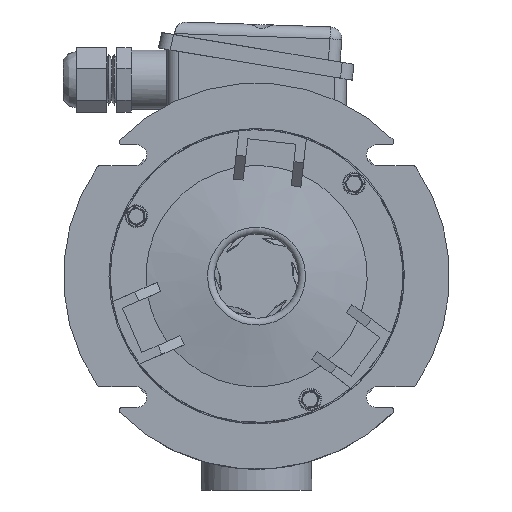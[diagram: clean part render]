
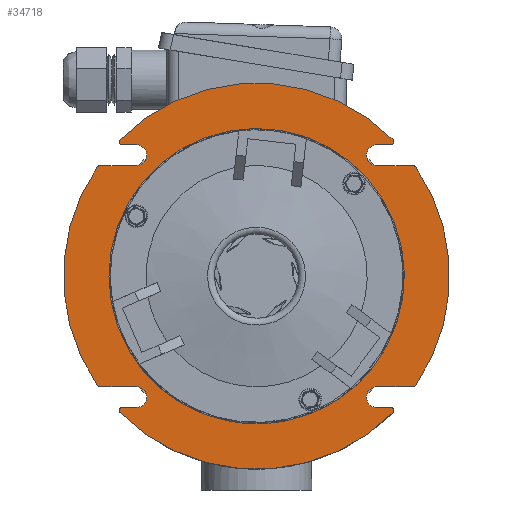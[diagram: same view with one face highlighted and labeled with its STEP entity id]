
A CAD part, front view. The second image highlights one B-rep face of the part: STEP entity #34718.
In plain terms, the highlighted planar face has unit normal (0, -1, 0).
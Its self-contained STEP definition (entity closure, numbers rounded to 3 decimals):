
#1494=FACE_BOUND('',#5978,.T.);
#2336=PLANE('',#37653);
#3986=FACE_OUTER_BOUND('',#5977,.T.);
#5977=EDGE_LOOP('',(#29343,#29344,#29345,#29346,#29347,#29348,#29349,#29350,
#29351,#29352,#29353,#29354,#29355,#29356,#29357,#29358,#29359,#29360,#29361,
#29362,#29363,#29364,#29365,#29366));
#5978=EDGE_LOOP('',(#29367,#29368));
#8481=LINE('',#68772,#11085);
#8484=LINE('',#68782,#11088);
#8485=LINE('',#68786,#11089);
#8486=LINE('',#68794,#11090);
#8487=LINE('',#68798,#11091);
#8488=LINE('',#68806,#11092);
#8489=LINE('',#68810,#11093);
#8490=LINE('',#68818,#11094);
#11085=VECTOR('',#45504,1.);
#11088=VECTOR('',#45513,1.);
#11089=VECTOR('',#45516,1.);
#11090=VECTOR('',#45523,1.);
#11091=VECTOR('',#45526,1.);
#11092=VECTOR('',#45533,1.);
#11093=VECTOR('',#45536,1.);
#11094=VECTOR('',#45543,1.);
#12732=CIRCLE('',#37651,0.1);
#12733=CIRCLE('',#37654,6.5);
#12734=CIRCLE('',#37655,0.1);
#12735=CIRCLE('',#37656,0.35);
#12736=CIRCLE('',#37657,0.1);
#12737=CIRCLE('',#37658,6.5);
#12738=CIRCLE('',#37659,0.1);
#12739=CIRCLE('',#37660,0.35);
#12740=CIRCLE('',#37661,0.1);
#12741=CIRCLE('',#37662,6.5);
#12742=CIRCLE('',#37663,0.1);
#12743=CIRCLE('',#37664,0.35);
#12744=CIRCLE('',#37665,0.1);
#12745=CIRCLE('',#37666,6.5);
#12746=CIRCLE('',#37667,0.1);
#12747=CIRCLE('',#37668,0.35);
#12748=CIRCLE('',#37669,4.97);
#12749=CIRCLE('',#37670,4.97);
#15670=VERTEX_POINT('',#68765);
#15671=VERTEX_POINT('',#68767);
#15672=VERTEX_POINT('',#68771);
#15674=VERTEX_POINT('',#68777);
#15675=VERTEX_POINT('',#68779);
#15676=VERTEX_POINT('',#68781);
#15677=VERTEX_POINT('',#68783);
#15678=VERTEX_POINT('',#68785);
#15679=VERTEX_POINT('',#68787);
#15680=VERTEX_POINT('',#68789);
#15681=VERTEX_POINT('',#68791);
#15682=VERTEX_POINT('',#68793);
#15683=VERTEX_POINT('',#68795);
#15684=VERTEX_POINT('',#68797);
#15685=VERTEX_POINT('',#68799);
#15686=VERTEX_POINT('',#68801);
#15687=VERTEX_POINT('',#68803);
#15688=VERTEX_POINT('',#68805);
#15689=VERTEX_POINT('',#68807);
#15690=VERTEX_POINT('',#68809);
#15691=VERTEX_POINT('',#68811);
#15692=VERTEX_POINT('',#68813);
#15693=VERTEX_POINT('',#68815);
#15694=VERTEX_POINT('',#68817);
#15695=VERTEX_POINT('',#68820);
#15696=VERTEX_POINT('',#68821);
#20339=EDGE_CURVE('',#15670,#15671,#12732,.T.);
#20341=EDGE_CURVE('',#15672,#15671,#8481,.T.);
#20344=EDGE_CURVE('',#15670,#15674,#12733,.T.);
#20345=EDGE_CURVE('',#15675,#15674,#12734,.T.);
#20346=EDGE_CURVE('',#15675,#15676,#8484,.T.);
#20347=EDGE_CURVE('',#15677,#15676,#12735,.T.);
#20348=EDGE_CURVE('',#15677,#15678,#8485,.T.);
#20349=EDGE_CURVE('',#15679,#15678,#12736,.T.);
#20350=EDGE_CURVE('',#15679,#15680,#12737,.T.);
#20351=EDGE_CURVE('',#15681,#15680,#12738,.T.);
#20352=EDGE_CURVE('',#15681,#15682,#8486,.T.);
#20353=EDGE_CURVE('',#15683,#15682,#12739,.T.);
#20354=EDGE_CURVE('',#15683,#15684,#8487,.T.);
#20355=EDGE_CURVE('',#15685,#15684,#12740,.T.);
#20356=EDGE_CURVE('',#15685,#15686,#12741,.T.);
#20357=EDGE_CURVE('',#15687,#15686,#12742,.T.);
#20358=EDGE_CURVE('',#15687,#15688,#8488,.T.);
#20359=EDGE_CURVE('',#15689,#15688,#12743,.T.);
#20360=EDGE_CURVE('',#15689,#15690,#8489,.T.);
#20361=EDGE_CURVE('',#15691,#15690,#12744,.T.);
#20362=EDGE_CURVE('',#15691,#15692,#12745,.T.);
#20363=EDGE_CURVE('',#15693,#15692,#12746,.T.);
#20364=EDGE_CURVE('',#15693,#15694,#8490,.T.);
#20365=EDGE_CURVE('',#15672,#15694,#12747,.T.);
#20366=EDGE_CURVE('',#15695,#15696,#12748,.T.);
#20367=EDGE_CURVE('',#15696,#15695,#12749,.T.);
#29343=ORIENTED_EDGE('',*,*,#20339,.F.);
#29344=ORIENTED_EDGE('',*,*,#20344,.T.);
#29345=ORIENTED_EDGE('',*,*,#20345,.F.);
#29346=ORIENTED_EDGE('',*,*,#20346,.T.);
#29347=ORIENTED_EDGE('',*,*,#20347,.F.);
#29348=ORIENTED_EDGE('',*,*,#20348,.T.);
#29349=ORIENTED_EDGE('',*,*,#20349,.F.);
#29350=ORIENTED_EDGE('',*,*,#20350,.T.);
#29351=ORIENTED_EDGE('',*,*,#20351,.F.);
#29352=ORIENTED_EDGE('',*,*,#20352,.T.);
#29353=ORIENTED_EDGE('',*,*,#20353,.F.);
#29354=ORIENTED_EDGE('',*,*,#20354,.T.);
#29355=ORIENTED_EDGE('',*,*,#20355,.F.);
#29356=ORIENTED_EDGE('',*,*,#20356,.T.);
#29357=ORIENTED_EDGE('',*,*,#20357,.F.);
#29358=ORIENTED_EDGE('',*,*,#20358,.T.);
#29359=ORIENTED_EDGE('',*,*,#20359,.F.);
#29360=ORIENTED_EDGE('',*,*,#20360,.T.);
#29361=ORIENTED_EDGE('',*,*,#20361,.F.);
#29362=ORIENTED_EDGE('',*,*,#20362,.T.);
#29363=ORIENTED_EDGE('',*,*,#20363,.F.);
#29364=ORIENTED_EDGE('',*,*,#20364,.T.);
#29365=ORIENTED_EDGE('',*,*,#20365,.F.);
#29366=ORIENTED_EDGE('',*,*,#20341,.T.);
#29367=ORIENTED_EDGE('',*,*,#20366,.F.);
#29368=ORIENTED_EDGE('',*,*,#20367,.F.);
#34718=ADVANCED_FACE('',(#3986,#1494),#2336,.T.);
#37651=AXIS2_PLACEMENT_3D('',#68768,#45499,#45500);
#37653=AXIS2_PLACEMENT_3D('',#68776,#45507,#45508);
#37654=AXIS2_PLACEMENT_3D('',#68778,#45509,#45510);
#37655=AXIS2_PLACEMENT_3D('',#68780,#45511,#45512);
#37656=AXIS2_PLACEMENT_3D('',#68784,#45514,#45515);
#37657=AXIS2_PLACEMENT_3D('',#68788,#45517,#45518);
#37658=AXIS2_PLACEMENT_3D('',#68790,#45519,#45520);
#37659=AXIS2_PLACEMENT_3D('',#68792,#45521,#45522);
#37660=AXIS2_PLACEMENT_3D('',#68796,#45524,#45525);
#37661=AXIS2_PLACEMENT_3D('',#68800,#45527,#45528);
#37662=AXIS2_PLACEMENT_3D('',#68802,#45529,#45530);
#37663=AXIS2_PLACEMENT_3D('',#68804,#45531,#45532);
#37664=AXIS2_PLACEMENT_3D('',#68808,#45534,#45535);
#37665=AXIS2_PLACEMENT_3D('',#68812,#45537,#45538);
#37666=AXIS2_PLACEMENT_3D('',#68814,#45539,#45540);
#37667=AXIS2_PLACEMENT_3D('',#68816,#45541,#45542);
#37668=AXIS2_PLACEMENT_3D('',#68819,#45544,#45545);
#37669=AXIS2_PLACEMENT_3D('',#68822,#45546,#45547);
#37670=AXIS2_PLACEMENT_3D('',#68823,#45548,#45549);
#45499=DIRECTION('center_axis',(0.,1.,0.));
#45500=DIRECTION('ref_axis',(0.466,0.,-0.885));
#45504=DIRECTION('',(1.,0.,0.));
#45507=DIRECTION('center_axis',(0.,-1.,0.));
#45508=DIRECTION('ref_axis',(0.,0.,-1.));
#45509=DIRECTION('center_axis',(0.,-1.,0.));
#45510=DIRECTION('ref_axis',(1.,0.,0.));
#45511=DIRECTION('center_axis',(0.,1.,0.));
#45512=DIRECTION('ref_axis',(0.466,0.,0.885));
#45513=DIRECTION('',(-1.,0.,0.));
#45514=DIRECTION('center_axis',(0.,-1.,0.));
#45515=DIRECTION('ref_axis',(-0.707,0.,0.707));
#45516=DIRECTION('',(1.,0.,0.));
#45517=DIRECTION('center_axis',(0.,1.,0.));
#45518=DIRECTION('ref_axis',(0.924,0.,-0.383));
#45519=DIRECTION('center_axis',(0.,-1.,0.));
#45520=DIRECTION('ref_axis',(1.,0.,0.));
#45521=DIRECTION('center_axis',(0.,1.,0.));
#45522=DIRECTION('ref_axis',(-0.924,0.,-0.383));
#45523=DIRECTION('',(1.,0.,0.));
#45524=DIRECTION('center_axis',(0.,-1.,0.));
#45525=DIRECTION('ref_axis',(0.707,0.,-0.707));
#45526=DIRECTION('',(-1.,0.,0.));
#45527=DIRECTION('center_axis',(0.,1.,0.));
#45528=DIRECTION('ref_axis',(-0.466,0.,0.885));
#45529=DIRECTION('center_axis',(0.,-1.,0.));
#45530=DIRECTION('ref_axis',(1.,0.,0.));
#45531=DIRECTION('center_axis',(0.,1.,0.));
#45532=DIRECTION('ref_axis',(-0.466,0.,-0.885));
#45533=DIRECTION('',(1.,0.,0.));
#45534=DIRECTION('center_axis',(0.,-1.,0.));
#45535=DIRECTION('ref_axis',(0.707,0.,-0.707));
#45536=DIRECTION('',(-1.,0.,0.));
#45537=DIRECTION('center_axis',(0.,1.,0.));
#45538=DIRECTION('ref_axis',(-0.924,0.,0.383));
#45539=DIRECTION('center_axis',(0.,-1.,0.));
#45540=DIRECTION('ref_axis',(1.,0.,0.));
#45541=DIRECTION('center_axis',(0.,1.,0.));
#45542=DIRECTION('ref_axis',(0.924,0.,0.383));
#45543=DIRECTION('',(-1.,0.,0.));
#45544=DIRECTION('center_axis',(0.,-1.,0.));
#45545=DIRECTION('ref_axis',(-0.707,0.,0.707));
#45546=DIRECTION('center_axis',(0.,-1.,0.));
#45547=DIRECTION('ref_axis',(1.,0.,0.));
#45548=DIRECTION('center_axis',(0.,-1.,0.));
#45549=DIRECTION('ref_axis',(1.,0.,0.));
#68765=CARTESIAN_POINT('',(5.357,0.223,-3.682));
#68767=CARTESIAN_POINT('',(5.274,0.223,-3.725));
#68768=CARTESIAN_POINT('Origin',(5.274,0.223,-3.625));
#68771=CARTESIAN_POINT('',(4.05,0.223,-3.725));
#68772=CARTESIAN_POINT('',(6.463,0.223,-3.725));
#68776=CARTESIAN_POINT('Origin',(4.97,0.223,0.));
#68777=CARTESIAN_POINT('',(5.357,0.223,3.682));
#68778=CARTESIAN_POINT('Origin',(0.,0.223,0.));
#68779=CARTESIAN_POINT('',(5.274,0.223,3.725));
#68780=CARTESIAN_POINT('Origin',(5.274,0.223,3.625));
#68781=CARTESIAN_POINT('',(4.05,0.223,3.725));
#68782=CARTESIAN_POINT('',(6.463,0.223,3.725));
#68783=CARTESIAN_POINT('',(4.05,0.223,4.425));
#68784=CARTESIAN_POINT('Origin',(4.05,0.223,4.075));
#68785=CARTESIAN_POINT('',(4.526,0.223,4.425));
#68786=CARTESIAN_POINT('',(4.335,0.223,4.425));
#68787=CARTESIAN_POINT('',(4.597,0.223,4.596));
#68788=CARTESIAN_POINT('Origin',(4.526,0.223,4.525));
#68789=CARTESIAN_POINT('',(-4.597,0.223,4.596));
#68790=CARTESIAN_POINT('Origin',(0.,0.223,0.));
#68791=CARTESIAN_POINT('',(-4.526,0.223,4.425));
#68792=CARTESIAN_POINT('Origin',(-4.526,0.223,4.525));
#68793=CARTESIAN_POINT('',(-4.05,0.223,4.425));
#68794=CARTESIAN_POINT('',(0.635,0.223,4.425));
#68795=CARTESIAN_POINT('',(-4.05,0.223,3.725));
#68796=CARTESIAN_POINT('Origin',(-4.05,0.223,4.075));
#68797=CARTESIAN_POINT('',(-5.274,0.223,3.725));
#68798=CARTESIAN_POINT('',(-1.493,0.223,3.725));
#68799=CARTESIAN_POINT('',(-5.357,0.223,3.682));
#68800=CARTESIAN_POINT('Origin',(-5.274,0.223,3.625));
#68801=CARTESIAN_POINT('',(-5.357,0.223,-3.682));
#68802=CARTESIAN_POINT('Origin',(0.,0.223,0.));
#68803=CARTESIAN_POINT('',(-5.274,0.223,-3.725));
#68804=CARTESIAN_POINT('Origin',(-5.274,0.223,-3.625));
#68805=CARTESIAN_POINT('',(-4.05,0.223,-3.725));
#68806=CARTESIAN_POINT('',(-1.493,0.223,-3.725));
#68807=CARTESIAN_POINT('',(-4.05,0.223,-4.425));
#68808=CARTESIAN_POINT('Origin',(-4.05,0.223,-4.075));
#68809=CARTESIAN_POINT('',(-4.526,0.223,-4.425));
#68810=CARTESIAN_POINT('',(0.635,0.223,-4.425));
#68811=CARTESIAN_POINT('',(-4.597,0.223,-4.596));
#68812=CARTESIAN_POINT('Origin',(-4.526,0.223,-4.525));
#68813=CARTESIAN_POINT('',(4.597,0.223,-4.596));
#68814=CARTESIAN_POINT('Origin',(0.,0.223,0.));
#68815=CARTESIAN_POINT('',(4.526,0.223,-4.425));
#68816=CARTESIAN_POINT('Origin',(4.526,0.223,-4.525));
#68817=CARTESIAN_POINT('',(4.05,0.223,-4.425));
#68818=CARTESIAN_POINT('',(4.335,0.223,-4.425));
#68819=CARTESIAN_POINT('Origin',(4.05,0.223,-4.075));
#68820=CARTESIAN_POINT('',(4.97,0.223,0.));
#68821=CARTESIAN_POINT('',(-4.97,0.223,0.));
#68822=CARTESIAN_POINT('Origin',(0.,0.223,0.));
#68823=CARTESIAN_POINT('Origin',(0.,0.223,0.));
